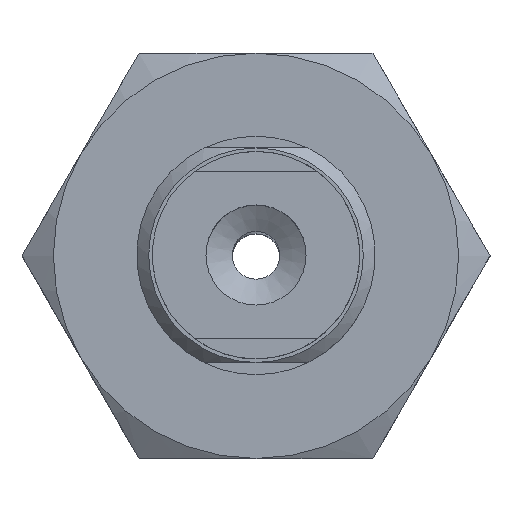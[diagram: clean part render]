
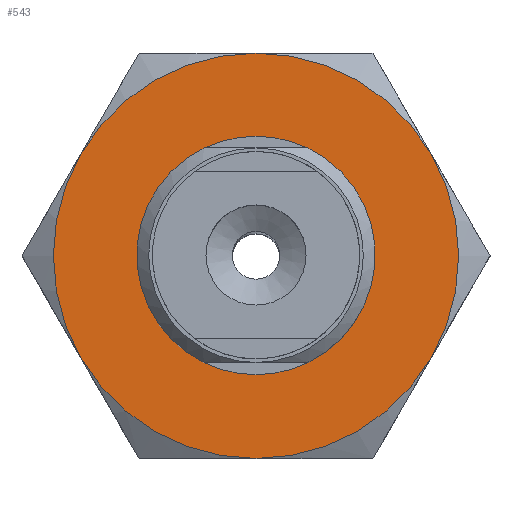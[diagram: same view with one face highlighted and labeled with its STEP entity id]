
A CAD part, top view. The second image highlights one B-rep face of the part: STEP entity #543.
In plain terms, the highlighted planar face has unit normal (0, 0, 1).
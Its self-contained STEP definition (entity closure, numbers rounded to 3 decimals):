
#543=ADVANCED_FACE('',(#753,#754),#755,.T.);
#753=FACE_BOUND('',#1156,.T.);
#754=FACE_OUTER_BOUND('',#1157,.T.);
#755=PLANE('',#1158);
#1156=EDGE_LOOP('',(#1719));
#1157=EDGE_LOOP('',(#1720,#1721,#1722,#1723,#1724,#1725));
#1158=AXIS2_PLACEMENT_3D('',#1726,#1727,#1728);
#1719=ORIENTED_EDGE('',*,*,#2538,.F.);
#1720=ORIENTED_EDGE('',*,*,#2539,.F.);
#1721=ORIENTED_EDGE('',*,*,#2532,.F.);
#1722=ORIENTED_EDGE('',*,*,#2508,.F.);
#1723=ORIENTED_EDGE('',*,*,#2511,.F.);
#1724=ORIENTED_EDGE('',*,*,#2540,.F.);
#1725=ORIENTED_EDGE('',*,*,#2541,.F.);
#1726=CARTESIAN_POINT('',(-9.815,-8.5,4.0));
#1727=DIRECTION('',(0.0,0.0,1.0));
#1728=DIRECTION('',(1.0,0.0,0.0));
#2508=EDGE_CURVE('',#2787,#2788,#2789,.T.);
#2511=EDGE_CURVE('',#2793,#2787,#2794,.T.);
#2532=EDGE_CURVE('',#2788,#2828,#2829,.T.);
#2538=EDGE_CURVE('',#2837,#2837,#2838,.T.);
#2539=EDGE_CURVE('',#2828,#2839,#2840,.T.);
#2540=EDGE_CURVE('',#2841,#2793,#2842,.T.);
#2541=EDGE_CURVE('',#2839,#2841,#2843,.T.);
#2787=VERTEX_POINT('',#3325);
#2788=VERTEX_POINT('',#3326);
#2789=CIRCLE('',#3327,8.5);
#2793=VERTEX_POINT('',#3339);
#2794=CIRCLE('',#3340,8.5);
#2828=VERTEX_POINT('',#3420);
#2829=CIRCLE('',#3421,8.5);
#2837=VERTEX_POINT('',#3446);
#2838=CIRCLE('',#3447,4.5);
#2839=VERTEX_POINT('',#3448);
#2840=CIRCLE('',#3449,8.5);
#2841=VERTEX_POINT('',#3450);
#2842=CIRCLE('',#3451,8.5);
#2843=CIRCLE('',#3452,8.5);
#3325=CARTESIAN_POINT('',(7.361,4.25,4.0));
#3326=CARTESIAN_POINT('',(7.361,-4.25,4.0));
#3327=AXIS2_PLACEMENT_3D('',#3931,#3932,#3933);
#3339=CARTESIAN_POINT('',(0.,8.5,4.0));
#3340=AXIS2_PLACEMENT_3D('',#3934,#3935,#3936);
#3420=CARTESIAN_POINT('',(0.,-8.5,4.0));
#3421=AXIS2_PLACEMENT_3D('',#3960,#3961,#3962);
#3446=CARTESIAN_POINT('',(0.0,-4.5,4.0));
#3447=AXIS2_PLACEMENT_3D('',#3964,#3965,#3966);
#3448=CARTESIAN_POINT('',(-7.361,-4.25,4.0));
#3449=AXIS2_PLACEMENT_3D('',#3967,#3968,#3969);
#3450=CARTESIAN_POINT('',(-7.361,4.25,4.0));
#3451=AXIS2_PLACEMENT_3D('',#3970,#3971,#3972);
#3452=AXIS2_PLACEMENT_3D('',#3973,#3974,#3975);
#3931=CARTESIAN_POINT('',(0.,0.,4.0));
#3932=DIRECTION('',(0.,0.,-1.0));
#3933=DIRECTION('',(0.866,0.5,0.));
#3934=CARTESIAN_POINT('',(0.,0.,4.0));
#3935=DIRECTION('',(0.,0.,-1.0));
#3936=DIRECTION('',(0.866,0.5,0.));
#3960=CARTESIAN_POINT('',(0.,0.,4.0));
#3961=DIRECTION('',(0.,0.,-1.0));
#3962=DIRECTION('',(0.866,0.5,0.));
#3964=CARTESIAN_POINT('',(0.0,0.0,4.0));
#3965=DIRECTION('',(0.0,0.,1.0));
#3966=DIRECTION('',(0.0,-1.0,0.));
#3967=CARTESIAN_POINT('',(0.,0.,4.0));
#3968=DIRECTION('',(0.,0.,-1.0));
#3969=DIRECTION('',(0.866,0.5,0.));
#3970=CARTESIAN_POINT('',(0.,0.,4.0));
#3971=DIRECTION('',(0.,0.,-1.0));
#3972=DIRECTION('',(0.866,0.5,0.));
#3973=CARTESIAN_POINT('',(0.,0.,4.0));
#3974=DIRECTION('',(0.,0.,-1.0));
#3975=DIRECTION('',(0.866,0.5,0.));
